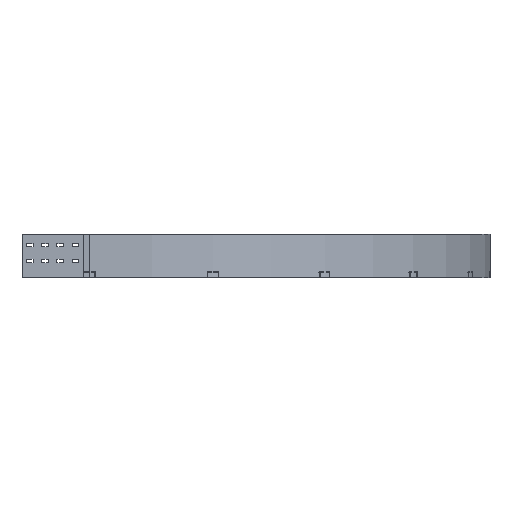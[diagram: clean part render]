
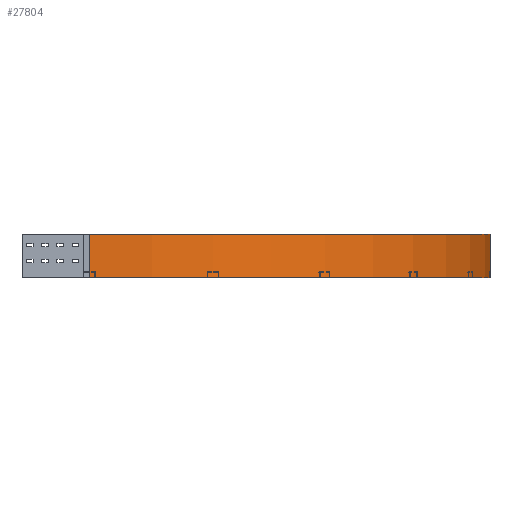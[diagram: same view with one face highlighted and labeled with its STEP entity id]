
A CAD part, front view. The second image highlights one B-rep face of the part: STEP entity #27804.
In plain terms, the highlighted cylindrical face has radius 1311 mm (diameter 2622 mm), a partial arc.
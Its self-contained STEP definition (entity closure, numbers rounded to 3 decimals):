
#1313=CYLINDRICAL_SURFACE('',#29241,1311.);
#1346=CIRCLE('',#29235,1311.);
#1349=CIRCLE('',#29240,1311.);
#2636=FACE_OUTER_BOUND('',#4048,.T.);
#4048=EDGE_LOOP('',(#18780,#18781,#18782,#18783));
#6079=LINE('',#38429,#8947);
#6083=LINE('',#38445,#8951);
#8947=VECTOR('',#31370,304.8);
#8951=VECTOR('',#31390,304.8);
#11812=VERTEX_POINT('',#38422);
#11815=VERTEX_POINT('',#38427);
#11816=VERTEX_POINT('',#38431);
#11819=VERTEX_POINT('',#38441);
#14591=EDGE_CURVE('',#11815,#11812,#6079,.T.);
#14592=EDGE_CURVE('',#11812,#11816,#1346,.T.);
#14598=EDGE_CURVE('',#11819,#11815,#1349,.T.);
#14599=EDGE_CURVE('',#11816,#11819,#6083,.T.);
#18780=ORIENTED_EDGE('',*,*,#14591,.F.);
#18781=ORIENTED_EDGE('',*,*,#14598,.F.);
#18782=ORIENTED_EDGE('',*,*,#14599,.F.);
#18783=ORIENTED_EDGE('',*,*,#14592,.F.);
#27804=ADVANCED_FACE('',(#2636),#1313,.T.);
#29235=AXIS2_PLACEMENT_3D('',#38432,#31373,#31374);
#29240=AXIS2_PLACEMENT_3D('',#38443,#31386,#31387);
#29241=AXIS2_PLACEMENT_3D('',#38444,#31388,#31389);
#31370=DIRECTION('',(0.,0.,1.));
#31373=DIRECTION('center_axis',(0.,0.,1.));
#31374=DIRECTION('ref_axis',(0.,-1.,0.));
#31386=DIRECTION('center_axis',(0.,0.,-1.));
#31387=DIRECTION('ref_axis',(0.,-1.,0.));
#31388=DIRECTION('center_axis',(0.,0.,1.));
#31389=DIRECTION('ref_axis',(0.,-1.,0.));
#31390=DIRECTION('',(0.,0.,-1.));
#38422=CARTESIAN_POINT('',(-805.5,-505.5,71.));
#38427=CARTESIAN_POINT('',(-805.5,-505.5,-71.));
#38429=CARTESIAN_POINT('',(-805.5,-505.5,-71.));
#38431=CARTESIAN_POINT('',(505.5,805.5,71.));
#38432=CARTESIAN_POINT('Origin',(-805.5,805.5,71.));
#38441=CARTESIAN_POINT('',(505.5,805.5,-71.));
#38443=CARTESIAN_POINT('Origin',(-805.5,805.5,-71.));
#38444=CARTESIAN_POINT('Origin',(-805.5,805.5,0.));
#38445=CARTESIAN_POINT('',(505.5,805.5,71.));
